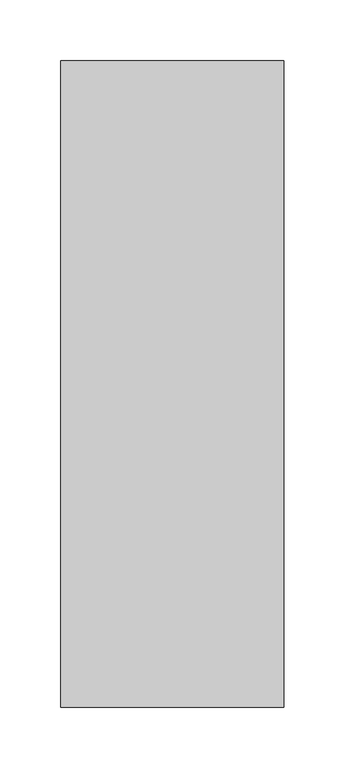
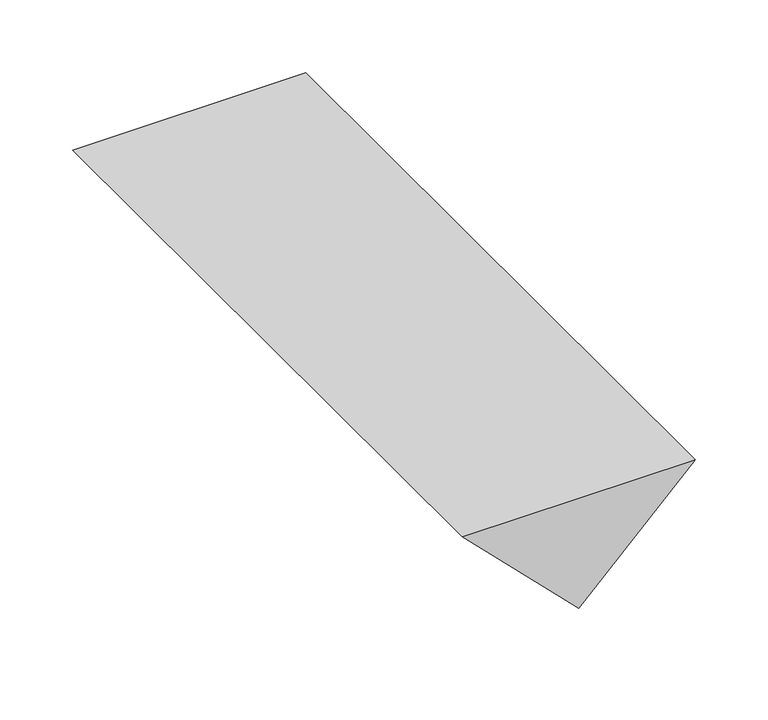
"""IFC4 building model written with IfcOpenShell, lengths in millimetres: proxy geometry, AERO^OFFICE 3_6x48 LIFT SHROUDS-RIGHT UNIT PARTS SOLID."""

from ifc_helpers import new_model, si_unit, frame, origin, place, context, project, spatial, polyline, outline, extrude, source, transform, mapped, element, save


def generic_models_26d7ec7b(model_context):
    return source(origin(), model_context, "Body", "SweptSolid", [
        extrude(outline(polyline([(-92.075, 92.075), (0.0, 184.15), (0.0, 0.0), (-92.075, 92.075)])), frame((0.0, 0.0, 0.0), z_axis=(0.0, 1.0, 0.0), x_axis=(0.0, 0.0, 1.0)), (0.0, 0.0, 1.0), 533.4),
    ])


if __name__ == "__main__":
    model = new_model("IFC4")
    model_context = context("Model", 3, world=origin())
    ifc_project = project(units=[si_unit("LENGTHUNIT", "METRE", prefix="MILLI")], contexts=[model_context])
    site = spatial("IfcSite", under=ifc_project)
    building = spatial("IfcBuilding", under=site)
    placement = place(None, origin())
    generic_models_shape = generic_models_26d7ec7b(model_context)
    element("IfcBuildingElementProxy", 1, Name="AERO^OFFICE 3_6x48 LIFT SHROUDS-RIGHT UNIT PARTS SOLID", ObjectType="AERO^OFFICE 3_6x48 LIFT SHROUDS-RIGHT UNIT PARTS SOLID", at=placement, inside=building, context=model_context, shape_type="MappedRepresentation", body=[
        mapped(generic_models_shape, transform((0.0, 0.0, 0.0), x_axis=(1.0, 0.0, 0.0), y_axis=(0.0, 1.0, 0.0), z_axis=(0.0, 0.0, 1.0))),
    ])
    save(model, "model.ifc")
